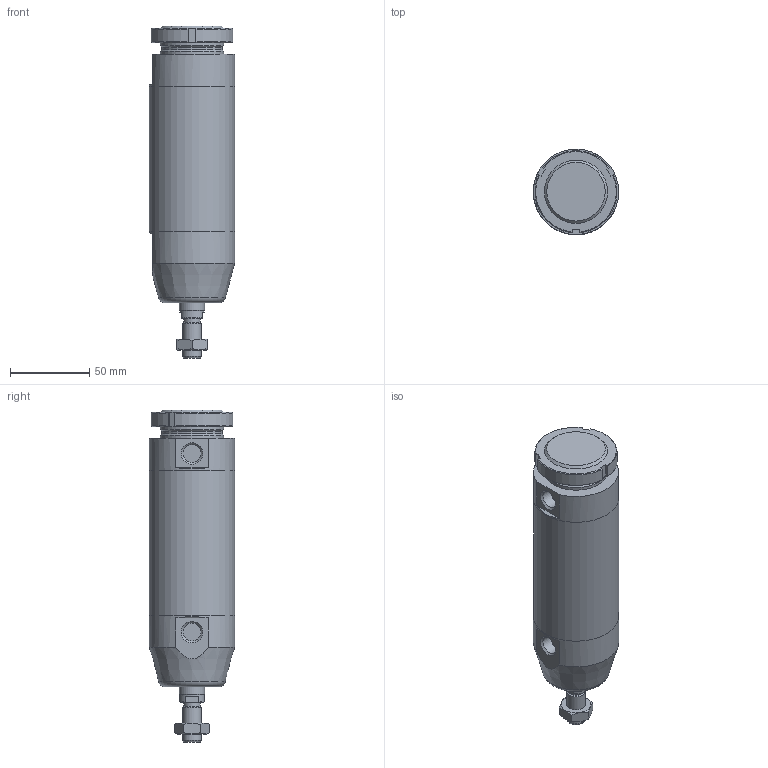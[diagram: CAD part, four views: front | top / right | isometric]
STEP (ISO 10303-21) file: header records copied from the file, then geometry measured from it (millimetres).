
FILE_DESCRIPTION(/* description */ (''),/* implementation_level */ '2;1');
FILE_NAME(/* name */ 'I:\Area Tecnica\Documenti\A-Manieri\_Inventor\12X\12X#B_###_####_#_#\12XAB_050_0050_#_#.stp',/* time_stamp */ '2015-04-27T16:25:08+02:00',/* author */ ('maniean1'),/* organization */ ('Pneumax S.p.A.'),/* preprocessor_version */ 'ST-DEVELOPER v15.2',/* originating_system */ 'Autodesk Inventor 2014',/* authorisation */ '');
FILE_SCHEMA (('AUTOMOTIVE_DESIGN { 1 0 10303 214 3 1 1 }'));
Length unit declared in the file: millimetre
Products named in the file (7): C1250_619-0050; 12X50_613; S12X50_0050; 12X_50_11; 12X50_620; G12X_050_05; 12XAB_050_0050_#_#
Bounding box: 54 x 54 x 210 mm (x, y, z)
Volume: 293227.2 mm3; surface area: 75915 mm2
Topology: 6 solids, 6 shells, 80 faces, 175 edges, 112 vertices
Faces by surface type: plane 40, cylinder 20, cone 19, torus 1
Full cylindrical faces by diameter (mm): 10.2 x1, 11.4 x2, 12 x2, 14 x1, 15.6 x1, 16 x1, 38.2 x1, 40 x3, 50 x2, 54 x3
Entity records: 2134 total; most frequent: CARTESIAN_POINT 399, DIRECTION 359, ORIENTED_EDGE 282, AXIS2_PLACEMENT_3D 154, EDGE_CURVE 141, EDGE_LOOP 122, VERTEX_POINT 107, ADVANCED_FACE 80
